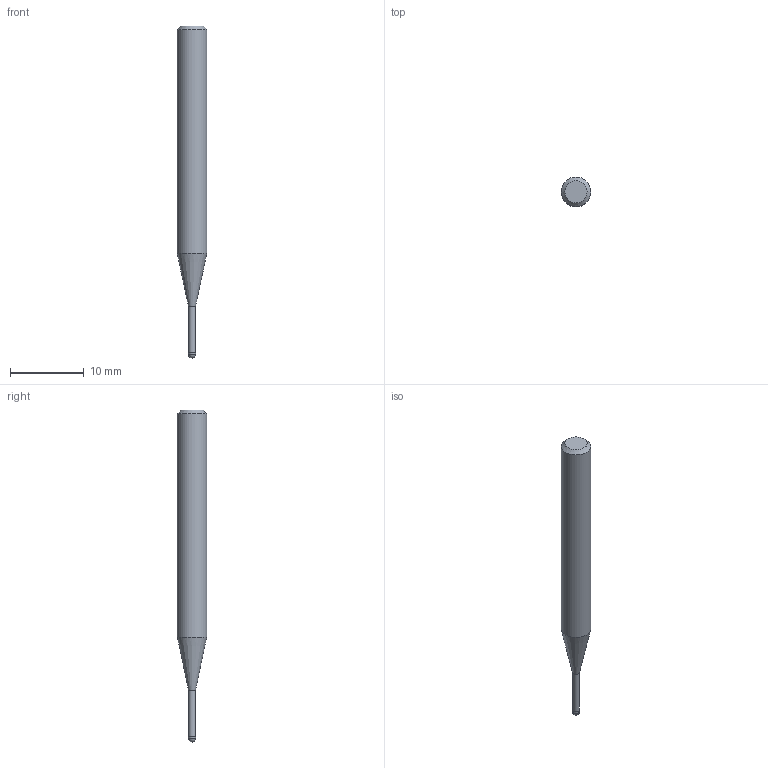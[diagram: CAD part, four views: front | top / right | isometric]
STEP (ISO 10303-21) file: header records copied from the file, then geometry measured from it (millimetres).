
FILE_DESCRIPTION((''),'2;1');
FILE_NAME('C:\Users\nsx150\AppData\Local\Temp\Mastercam 2021\3SYKECWX22\TEMP.step','2021-04-22T10:02:15',(''),(''),'STEP Write','Mastercam 2021 ... CNC Software, Inc.','');
FILE_SCHEMA(('AUTOMOTIVE_DESIGN'));
Length unit declared in the file: millimetre
Products named in the file (1): None
Bounding box: 4 x 4 x 45 mm (x, y, z)
Volume: 429.7 mm3; surface area: 475.5 mm2
Topology: 2 solids, 2 shells, 9 faces, 14 edges, 8 vertices
Faces by surface type: plane 3, cylinder 3, cone 2, sphere 1
Full cylindrical faces by diameter (mm): 0.95 x1, 1 x1, 4 x1
Entity records: 211 total; most frequent: DIRECTION 36, CARTESIAN_POINT 25, AXIS2_PLACEMENT_3D 18, ORIENTED_EDGE 14, EDGE_LOOP 14, STYLED_ITEM 12, ADVANCED_FACE 9, FACE_BOUND 8
